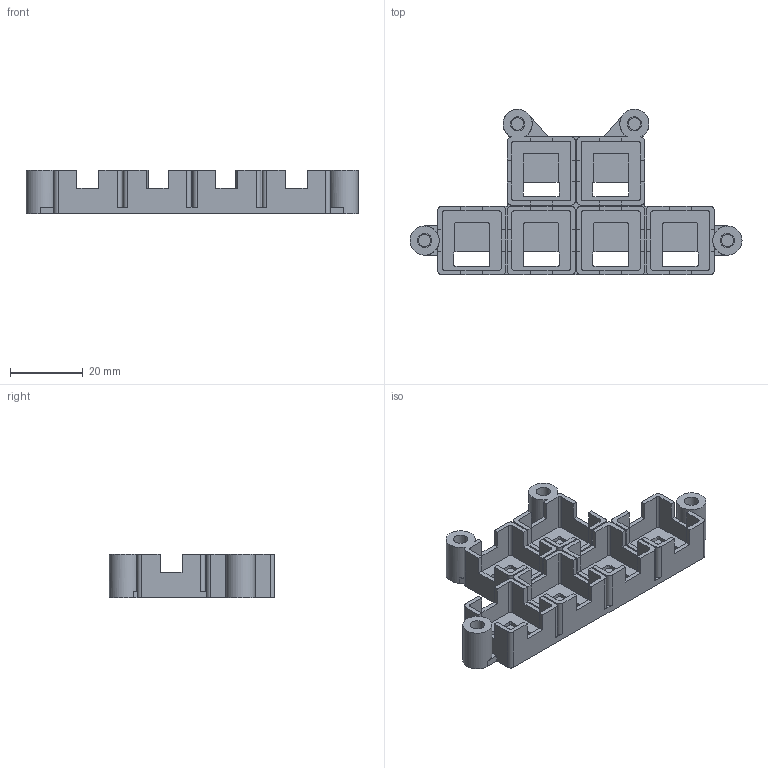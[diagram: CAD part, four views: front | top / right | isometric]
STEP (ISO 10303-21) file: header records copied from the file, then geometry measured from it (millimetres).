
FILE_DESCRIPTION(('Open CASCADE Model'),'2;1');
FILE_NAME('Open CASCADE Shape Model','2026-09-15T08:23:08',('Author'),( 'Open CASCADE'),'Open CASCADE STEP processor 7.9','Open CASCADE 7.9' ,'Unknown');
FILE_SCHEMA(('AUTOMOTIVE_DESIGN { 1 0 10303 214 1 1 1 1 }'));
Length unit declared in the file: millimetre
Products named in the file (1): Open CASCADE STEP translator 7.9 4
Bounding box: 91 x 45.32 x 12 mm (x, y, z)
Volume: 9356 mm3; surface area: 13435.5 mm2
Topology: 1 solids, 1 shells, 321 faces, 933 edges, 622 vertices
Faces by surface type: plane 224, cylinder 97
Full cylindrical faces by diameter (mm): 3.4 x4, 3.9 x4, 8 x1
Entity records: 22297 total; most frequent: CARTESIAN_POINT 4700, DIRECTION 2986, ORIENTED_EDGE 1866, PCURVE 1866, DEFINITIONAL_REPRESENTATION 1866, LINE 1740, VECTOR 1740, EDGE_CURVE 933
